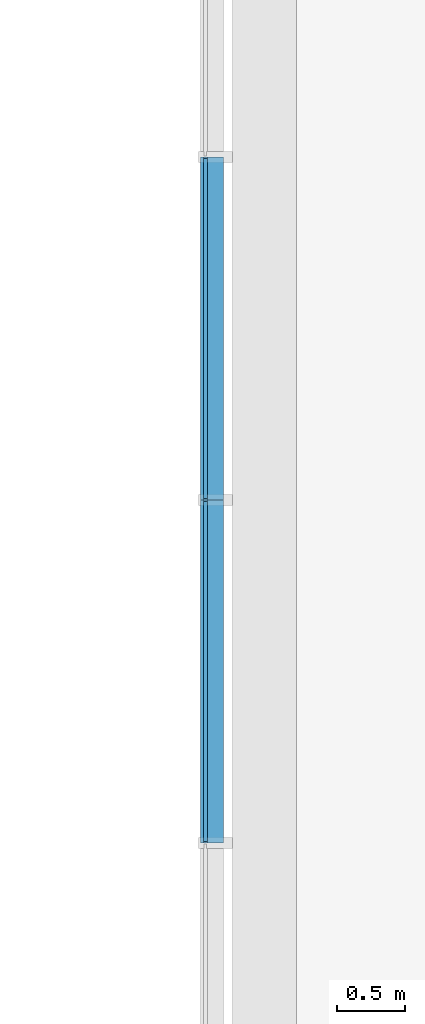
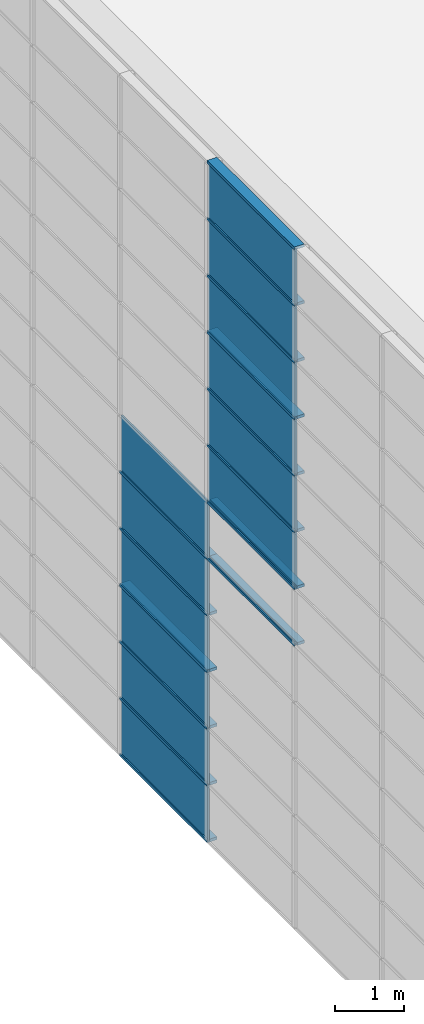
# One storey, part 16 of 105: 29 building element parts, 4 elements without a shape of their own.
"""IFC4 building model written with IfcOpenShell, lengths in millimetres."""

import ifcopenshell
import ifcopenshell.guid

model = None  # the IFC model being written
_history = None  # IfcOwnerHistory: only IFC2X3 demands one
_inside = {}  # id of a spatial element -> (the spatial element, [elements in it])
_under = {}  # id of a project, library or spatial element -> (it, [spatial elements below it])
_declared = {}  # id of a project -> (the project, [libraries it declares])
_typed = {}  # id of a type object -> (the type object, [elements of that type])
_made_of = {}  # id of a material, layer set ... -> (it, [elements and type objects made of it])


def new_model(schema):
    """Start an empty IFC model of exactly this schema.

    Asked for "IFC4X3", IfcOpenShell would pick the latest addendum, in which some entities
    have other attributes; the version numbers below select the first issue.
    IFC2X3 requires an IfcOwnerHistory on every rooted entity: one is made here for all.
    """
    global model, _history
    if schema == "IFC4X3":
        model = ifcopenshell.file(schema_version=(4, 3, 0, 0))
    else:
        model = ifcopenshell.file(schema=schema)
    _inside.clear()
    _under.clear()
    _declared.clear()
    _typed.clear()
    _made_of.clear()
    _history = None
    if model.schema == "IFC2X3":
        org = make("IfcOrganization", Name="unknown")
        user = make(
            "IfcPersonAndOrganization",
            ThePerson=make("IfcPerson", FamilyName="unknown"),
            TheOrganization=org,
        )
        app = make(
            "IfcApplication",
            ApplicationDeveloper=org,
            Version="unknown",
            ApplicationFullName="unknown",
            ApplicationIdentifier="unknown",
        )
        _history = make(
            "IfcOwnerHistory",
            OwningUser=user,
            OwningApplication=app,
            ChangeAction="ADDED",
            CreationDate=0,
        )
    return model


def make(cls, **values):
    """One entity of the class cls with the attributes given. An attribute that is None is left unset."""
    return model.create_entity(
        cls, **{name: value for name, value in values.items() if value is not None}
    )


def entity(cls, *values):
    """Any entity or typed value of the class cls, its attributes in the order of the schema. None: left unset."""
    e = model.create_entity(cls)
    for i, value in enumerate(values):
        if value is not None:
            e[i] = value
    return e


def rooted(cls, **values):
    """An entity with a GlobalId (a new one), such as an element, a storey or a relation."""
    return make(cls, GlobalId=ifcopenshell.guid.new(), OwnerHistory=_history, **values)


def si_unit(unit_type, name, prefix=None):
    """IfcSIUnit, for example si_unit("LENGTHUNIT", "METRE", prefix="MILLI")."""
    return make("IfcSIUnit", UnitType=unit_type, Prefix=prefix, Name=name)


def converted_unit(unit_type, name, factor, base, dimensions=None, offset=None):
    """IfcConversionBasedUnit, such as the inch: factor (a typed value) times the base unit."""
    return make(
        "IfcConversionBasedUnit"
        if offset is None
        else "IfcConversionBasedUnitWithOffset",
        ConversionOffset=offset,
        Dimensions=None
        if dimensions is None
        else entity("IfcDimensionalExponents", *dimensions),
        UnitType=unit_type,
        Name=name,
        ConversionFactor=make(
            "IfcMeasureWithUnit", ValueComponent=factor, UnitComponent=base
        ),
    )


def derived_unit(unit_type, elements):
    """IfcDerivedUnit: a product of units, each with its exponent."""
    return make(
        "IfcDerivedUnit",
        Elements=[
            make("IfcDerivedUnitElement", Unit=unit, Exponent=power)
            for unit, power in elements
        ],
        UnitType=unit_type,
    )


def assignment(units):
    """IfcUnitAssignment: the units of a project."""
    return None if units is None else make("IfcUnitAssignment", Units=units)


def point(xyz):
    """IfcCartesianPoint."""
    return None if xyz is None else make("IfcCartesianPoint", Coordinates=xyz)


def direction(xyz):
    """IfcDirection."""
    return None if xyz is None else make("IfcDirection", DirectionRatios=xyz)


def frame(location, z_axis=None, x_axis=None):
    """IfcAxis2Placement3D, a coordinate frame: its origin and axes. An axis left out is left unset."""
    return make(
        "IfcAxis2Placement3D",
        Location=point(location),
        Axis=direction(z_axis),
        RefDirection=direction(x_axis),
    )


def origin_with_axes():
    """The frame at (0, 0, 0) with the z axis (0, 0, 1) and the x axis (1, 0, 0) written out."""
    return frame((0.0, 0.0, 0.0), z_axis=(0.0, 0.0, 1.0), x_axis=(1.0, 0.0, 0.0))


def place(relative_to, where):
    """IfcLocalPlacement: puts the frame where relative to a parent placement (None: the world)."""
    return make(
        "IfcLocalPlacement", PlacementRelTo=relative_to, RelativePlacement=where
    )


def context(
    kind, dimensions, precision=None, world=None, true_north=None, identifier=None
):
    """IfcGeometricRepresentationContext, for example the 3D "Model" context."""
    return make(
        "IfcGeometricRepresentationContext",
        ContextIdentifier=identifier,
        ContextType=kind,
        CoordinateSpaceDimension=dimensions,
        Precision=precision,
        WorldCoordinateSystem=world,
        TrueNorth=true_north,
    )


def subcontext(parent, identifier, kind, view, scale=None):
    """IfcGeometricRepresentationSubContext, for example "Body" below "Model"."""
    return make(
        "IfcGeometricRepresentationSubContext",
        ContextIdentifier=identifier,
        ContextType=kind,
        ParentContext=parent,
        TargetScale=scale,
        TargetView=view,
    )


def project(units=None, contexts=None):
    """IfcProject with its units and contexts."""
    return rooted(
        "IfcProject",
        Name="project",
        RepresentationContexts=contexts,
        UnitsInContext=assignment(units),
    )


def spatial(cls, under=None, at=None, **own):
    """A site, building, storey or space (cls), placed at a placement, below another one or the project."""
    s = rooted(cls, ObjectPlacement=at, **own)
    if under is not None:
        _under.setdefault(under.id(), (under, []))[1].append(s)
    return s


def point_list(points):
    """IfcCartesianPointList2D or 3D."""
    cls = (
        "IfcCartesianPointList2D" if len(points[0]) == 2 else "IfcCartesianPointList3D"
    )
    return make(cls, CoordList=points)


def triangles(points, corners, closed=None, point_numbers=None):
    """IfcTriangulatedFaceSet: each triangle names its three corners, points numbered from 1."""
    return make(
        "IfcTriangulatedFaceSet",
        Coordinates=point_list(points),
        Closed=closed,
        CoordIndex=corners,
        PnIndex=point_numbers,
    )


def shape(context_of_items, identifier, shape_type, items):
    """IfcShapeRepresentation: the items that make up one representation, for example the "Body"."""
    return make(
        "IfcShapeRepresentation",
        ContextOfItems=context_of_items,
        RepresentationIdentifier=identifier,
        RepresentationType=shape_type,
        Items=items,
    )


def material(Name=None, Category=None):
    """IfcMaterial."""
    return make("IfcMaterial", Name=Name, Category=Category)


def made_of(thing, what):
    """Note that an element or type object is made of a material, layer set ...; save() writes the relation."""
    if what is not None:
        _made_of.setdefault(what.id(), (what, []))[1].append(thing)
    return thing


def element(
    cls,
    number,
    at=None,
    inside=None,
    cuts=None,
    type_object=None,
    material=None,
    context=None,
    identifier="Body",
    shape_type=None,
    held_by="IfcProductDefinitionShape",
    body=None,
    shapes=None,
    **own,
):
    """One element of the class cls, such as IfcWall. Its Tag is "e" and its number.

    at: its placement. inside: the storey or other place that contains it. cuts: it is an
    opening in that element (IfcRelVoidsElement). A single representation is given by context,
    identifier, shape_type and body (its items); several are given by shapes. held_by: the class
    of the entity that holds the representations. save() writes the other relations.
    """
    e = rooted(cls, Tag="e%d" % number, ObjectPlacement=at, **own)
    if body is not None:
        shapes = [shape(context, identifier, shape_type, body)]
    if shapes is not None:
        e.Representation = make(held_by, Representations=shapes)
    if inside is not None:
        _inside.setdefault(inside.id(), (inside, []))[1].append(e)
    if cuts is not None:
        rooted(
            "IfcRelVoidsElement", RelatingBuildingElement=cuts, RelatedOpeningElement=e
        )
    if type_object is not None:
        _typed.setdefault(type_object.id(), (type_object, []))[1].append(e)
    return made_of(e, material)


def aggregate(whole, parts):
    """IfcRelAggregates: a whole, such as a stair, and the parts it consists of."""
    return rooted("IfcRelAggregates", RelatingObject=whole, RelatedObjects=parts)


def save(model, path):
    """Write the relations noted so far, then the file.

    IfcRelAggregates (storeys below a building ...), IfcRelContainedInSpatialStructure (elements
    in a storey), IfcRelDefinesByType, IfcRelAssociatesMaterial and IfcRelDeclares: one each for
    every whole, place, type object, material and project.
    """
    for whole, parts in _under.values():
        aggregate(whole, parts)
    for where, things in _inside.values():
        rooted(
            "IfcRelContainedInSpatialStructure",
            RelatedElements=things,
            RelatingStructure=where,
        )
    for kind, things in _typed.values():
        rooted("IfcRelDefinesByType", RelatedObjects=things, RelatingType=kind)
    for what, things in _made_of.values():
        rooted("IfcRelAssociatesMaterial", RelatedObjects=things, RelatingMaterial=what)
    for by, libraries in _declared.values():
        rooted("IfcRelDeclares", RelatingContext=by, RelatedDefinitions=libraries)
    model.write(path)


model = new_model("IFC4")

# Units and contexts
model_context = context("Model", 3, precision=1e-05, world=origin_with_axes(), true_north=direction((0.0, 1.0)))
body_context = subcontext(model_context, "Body", "Model", "MODEL_VIEW")
ifc_project = project(units=[si_unit("LENGTHUNIT", "METRE", prefix="MILLI"), si_unit("AREAUNIT", "SQUARE_METRE"), si_unit("VOLUMEUNIT", "CUBIC_METRE"), converted_unit("PLANEANGLEUNIT", "DEGREE", entity("IfcLengthMeasure", 0.017453), si_unit("PLANEANGLEUNIT", "RADIAN"), dimensions=[0, 0, 0, 0, 0, 0, 0]), si_unit("SOLIDANGLEUNIT", "STERADIAN"), si_unit("MASSUNIT", "GRAM"), si_unit("TIMEUNIT", "SECOND"), si_unit("THERMODYNAMICTEMPERATUREUNIT", "DEGREE_CELSIUS"), si_unit("LUMINOUSINTENSITYUNIT", "LUMEN"), si_unit("POWERUNIT", "WATT"), derived_unit("THERMALTRANSMITTANCEUNIT", [(si_unit("POWERUNIT", "WATT"), 1), (si_unit("THERMODYNAMICTEMPERATUREUNIT", "KELVIN"), -1), (si_unit("AREAUNIT", "SQUARE_METRE"), -1)])], contexts=[model_context])

# Site, building, storey
site_placement = place(None, origin_with_axes())
site = spatial("IfcSite", under=ifc_project, at=site_placement, Name="Default Site", CompositionType="ELEMENT")
building_placement = place(site_placement, origin_with_axes())
building = spatial("IfcBuilding", under=site, at=building_placement, Name="Default Building", CompositionType="ELEMENT")
storey_placement = place(building_placement, origin_with_axes())
storey = spatial("IfcBuildingStorey", under=building, at=storey_placement, Name="OG - Story", CompositionType="ELEMENT", Elevation=0.0)

# Curtain wall, building element parts
curtain_wall_1_placement = place(storey_placement, origin_with_axes())
curtain_wall_1 = element("IfcCurtainWall", 1, at=curtain_wall_1_placement, inside=storey, Name="Fassade-003", PredefinedType="NOTDEFINED")
ifc_material_1 = material(Name="Normalglas")
building_element_part_1_placement = place(curtain_wall_1_placement, frame((31551.391327, -51326.104944, 0.0), z_axis=(0.0, 0.0, 1.0), x_axis=(1.0, 0.0, 0.0)))
building_element_part_1 = element("IfcBuildingElementPart", 2, at=building_element_part_1_placement, material=ifc_material_1, Name="Normalglas", PredefinedType="NOTDEFINED", context=body_context, shape_type="Tessellation", body=[
    triangles([(15.0, 29042.632, 995.0), (-14.999, 29042.632, 995.0), (-14.999, 26536.316, 995.0), (15.0, 26536.316, 995.0), (15.0, 29042.632, 5.0), (-14.999, 29042.632, 5.0), (-14.999, 26536.316, 5.0), (15.0, 26536.316, 5.0)], [[1, 2, 3], [1, 3, 4], [5, 6, 2], [5, 2, 1], [2, 6, 7], [2, 7, 3], [4, 3, 7], [4, 7, 8], [1, 4, 8], [1, 8, 5], [8, 7, 6], [8, 6, 5]], closed=False),
])
building_element_part_2_placement = place(curtain_wall_1_placement, frame((31551.391327, -51326.104944, 0.0), z_axis=(0.0, 0.0, 1.0), x_axis=(1.0, 0.0, 0.0)))
building_element_part_2 = element("IfcBuildingElementPart", 3, at=building_element_part_2_placement, material=ifc_material_1, Name="Normalglas", PredefinedType="NOTDEFINED", context=body_context, shape_type="Tessellation", body=[
    triangles([(15.0, 29042.632, 1995.0), (-14.999, 29042.632, 1995.0), (-14.999, 26536.316, 1995.0), (15.0, 26536.316, 1995.0), (15.0, 29042.632, 1005.0), (-14.999, 29042.632, 1005.0), (-14.999, 26536.316, 1005.0), (15.0, 26536.316, 1005.0)], [[1, 2, 3], [1, 3, 4], [5, 6, 2], [5, 2, 1], [2, 6, 7], [2, 7, 3], [4, 3, 7], [4, 7, 8], [1, 4, 8], [1, 8, 5], [8, 7, 6], [8, 6, 5]], closed=False),
])
building_element_part_3_placement = place(curtain_wall_1_placement, frame((31551.391327, -51326.104944, 0.0), z_axis=(0.0, 0.0, 1.0), x_axis=(1.0, 0.0, 0.0)))
building_element_part_3 = element("IfcBuildingElementPart", 4, at=building_element_part_3_placement, material=ifc_material_1, Name="Normalglas", PredefinedType="NOTDEFINED", context=body_context, shape_type="Tessellation", body=[
    triangles([(15.0, 29042.632, 2995.0), (-14.999, 29042.632, 2995.0), (-14.999, 26536.316, 2995.0), (15.0, 26536.316, 2995.0), (15.0, 29042.632, 2005.0), (-14.999, 29042.632, 2005.0), (-14.999, 26536.316, 2005.0), (15.0, 26536.316, 2005.0)], [[1, 2, 3], [1, 3, 4], [5, 6, 2], [5, 2, 1], [2, 6, 7], [2, 7, 3], [4, 3, 7], [4, 7, 8], [1, 4, 8], [1, 8, 5], [8, 7, 6], [8, 6, 5]], closed=False),
])
ifc_material_2 = material(Name="Blech")
building_element_part_4_placement = place(curtain_wall_1_placement, frame((31551.391327, -51326.104944, 0.0), z_axis=(0.0, 0.0, 1.0), x_axis=(1.0, 0.0, 0.0)))
building_element_part_4 = element("IfcBuildingElementPart", 5, at=building_element_part_4_placement, material=ifc_material_2, Name="Blech", PredefinedType="NOTDEFINED", context=body_context, shape_type="Tessellation", body=[
    triangles([(15.0, 29052.632, 25.0), (133.0, 29052.632, 25.0), (15.0, 29052.632, 5.0), (133.0, 29052.632, -24.999), (-14.999, 29052.632, 5.0), (-34.999, 29052.632, -24.999), (-34.999, 29052.632, 25.0), (-14.999, 29052.632, 25.0), (15.0, 26526.316, 5.0), (15.0, 26526.316, 25.0), (133.0, 26526.316, 25.0), (133.0, 26526.316, -24.999), (-34.999, 26526.316, -24.999), (-34.999, 26526.316, 25.0), (-14.999, 26526.316, 25.0), (-14.999, 26526.316, 5.0)], [[1, 2, 3], [3, 2, 4], [3, 4, 5], [5, 4, 6], [5, 6, 7], [5, 7, 8], [3, 9, 10], [3, 10, 1], [10, 11, 2], [10, 2, 1], [11, 12, 4], [11, 4, 2], [12, 13, 6], [12, 6, 4], [13, 14, 7], [13, 7, 6], [8, 7, 14], [8, 14, 15], [15, 16, 5], [15, 5, 8], [5, 16, 9], [5, 9, 3], [16, 9, 12], [16, 12, 13], [16, 13, 14], [16, 14, 15], [11, 12, 9], [11, 9, 10]], closed=False),
])
building_element_part_5_placement = place(curtain_wall_1_placement, frame((31551.391327, -51326.104944, 0.0), z_axis=(0.0, 0.0, 1.0), x_axis=(1.0, 0.0, 0.0)))
building_element_part_5 = element("IfcBuildingElementPart", 6, at=building_element_part_5_placement, material=ifc_material_2, Name="Blech", PredefinedType="NOTDEFINED", context=body_context, shape_type="Tessellation", body=[
    triangles([(-14.999, 29052.632, 1025.0), (-34.999, 29052.632, 1025.0), (-14.999, 29052.632, 1005.0), (-14.999, 29052.632, 995.0), (15.0, 29052.632, 1005.0), (133.0, 29052.632, 1025.0), (15.0, 29052.632, 1025.0), (-34.999, 29052.632, 975.0), (-14.999, 29052.632, 975.0), (15.0, 29052.632, 995.0), (15.0, 29052.632, 975.0), (133.0, 29052.632, 975.0), (15.0, 26526.316, 995.0), (-14.999, 26526.316, 995.0), (-14.999, 26526.316, 975.0), (-34.999, 26526.316, 975.0), (-34.999, 26526.316, 1025.0), (-14.999, 26526.316, 1025.0), (-14.999, 26526.316, 1005.0), (15.0, 26526.316, 1005.0), (15.0, 26526.316, 1025.0), (133.0, 26526.316, 1025.0), (133.0, 26526.316, 975.0), (15.0, 26526.316, 975.0)], [[1, 2, 3], [3, 2, 4], [3, 4, 5], [5, 4, 6], [5, 6, 7], [8, 9, 4], [8, 4, 2], [6, 4, 10], [6, 10, 11], [6, 11, 12], [10, 13, 14], [10, 14, 4], [4, 14, 15], [4, 15, 9], [15, 16, 8], [15, 8, 9], [8, 16, 17], [8, 17, 2], [18, 1, 2], [18, 2, 17], [1, 18, 19], [1, 19, 3], [5, 3, 19], [5, 19, 20], [7, 5, 20], [7, 20, 21], [7, 21, 22], [7, 22, 6], [6, 22, 23], [6, 23, 12], [11, 12, 23], [11, 23, 24], [11, 24, 13], [11, 13, 10], [21, 22, 20], [20, 22, 13], [20, 13, 19], [19, 13, 14], [19, 14, 17], [17, 14, 15], [17, 15, 16], [23, 24, 13], [23, 13, 22], [19, 17, 18]], closed=False),
])
building_element_part_6_placement = place(curtain_wall_1_placement, frame((31551.391327, -51326.104944, 0.0), z_axis=(0.0, 0.0, 1.0), x_axis=(1.0, 0.0, 0.0)))
building_element_part_6 = element("IfcBuildingElementPart", 7, at=building_element_part_6_placement, material=ifc_material_2, Name="Blech", PredefinedType="NOTDEFINED", context=body_context, shape_type="Tessellation", body=[
    triangles([(-14.999, 29052.632, 2025.0), (-34.999, 29052.632, 2025.0), (-14.999, 29052.632, 2005.0), (-14.999, 29052.632, 1995.0), (15.0, 29052.632, 2005.0), (133.0, 29052.632, 2025.0), (15.0, 29052.632, 2025.0), (-34.999, 29052.632, 1975.0), (-14.999, 29052.632, 1975.0), (15.0, 29052.632, 1995.0), (15.0, 29052.632, 1975.0), (133.0, 29052.632, 1975.0), (15.0, 26526.316, 1995.0), (-14.999, 26526.316, 1995.0), (-14.999, 26526.316, 1975.0), (-34.999, 26526.316, 1975.0), (-34.999, 26526.316, 2025.0), (-14.999, 26526.316, 2025.0), (-14.999, 26526.316, 2005.0), (15.0, 26526.316, 2005.0), (15.0, 26526.316, 2025.0), (133.0, 26526.316, 2025.0), (133.0, 26526.316, 1975.0), (15.0, 26526.316, 1975.0)], [[1, 2, 3], [3, 2, 4], [3, 4, 5], [5, 4, 6], [5, 6, 7], [8, 9, 4], [8, 4, 2], [6, 4, 10], [6, 10, 11], [6, 11, 12], [10, 13, 14], [10, 14, 4], [4, 14, 15], [4, 15, 9], [15, 16, 8], [15, 8, 9], [8, 16, 17], [8, 17, 2], [18, 1, 2], [18, 2, 17], [1, 18, 19], [1, 19, 3], [5, 3, 19], [5, 19, 20], [7, 5, 20], [7, 20, 21], [7, 21, 22], [7, 22, 6], [6, 22, 23], [6, 23, 12], [11, 12, 23], [11, 23, 24], [11, 24, 13], [11, 13, 10], [21, 22, 20], [20, 22, 13], [20, 13, 19], [19, 13, 14], [19, 14, 17], [17, 14, 15], [17, 15, 16], [23, 24, 13], [23, 13, 22], [19, 17, 18]], closed=False),
])
building_element_part_7_placement = place(curtain_wall_1_placement, frame((31551.391327, -51326.104944, 0.0), z_axis=(0.0, 0.0, 1.0), x_axis=(1.0, 0.0, 0.0)))
building_element_part_7 = element("IfcBuildingElementPart", 8, at=building_element_part_7_placement, material=ifc_material_2, Name="Blech", PredefinedType="NOTDEFINED", context=body_context, shape_type="Tessellation", body=[
    triangles([(-14.999, 29052.632, 2995.0), (15.0, 29052.632, 2995.0), (133.0, 29052.632, 3025.0), (-34.999, 29052.632, 3025.0), (-34.999, 29052.632, 2975.0), (-14.999, 29052.632, 2975.0), (15.0, 29052.632, 2975.0), (133.0, 29052.632, 2975.0), (15.0, 26526.316, 2995.0), (-14.999, 26526.316, 2995.0), (-14.999, 26526.316, 2975.0), (-34.999, 26526.316, 2975.0), (-34.999, 26526.316, 3025.0), (133.0, 26526.316, 3025.0), (133.0, 26526.316, 2975.0), (15.0, 26526.316, 2975.0)], [[1, 2, 3], [1, 3, 4], [1, 4, 5], [1, 5, 6], [7, 8, 3], [7, 3, 2], [1, 2, 9], [1, 9, 10], [11, 6, 1], [11, 1, 10], [6, 11, 12], [6, 12, 5], [13, 4, 5], [13, 5, 12], [14, 3, 4], [14, 4, 13], [15, 8, 3], [15, 3, 14], [16, 7, 8], [16, 8, 15], [2, 7, 16], [2, 16, 9], [10, 9, 14], [10, 14, 13], [10, 13, 12], [10, 12, 11], [16, 15, 14], [16, 14, 9]], closed=False),
])
aggregate(curtain_wall_1, [building_element_part_1, building_element_part_2, building_element_part_3, building_element_part_4, building_element_part_5, building_element_part_6, building_element_part_7])

curtain_wall_2_placement = place(storey_placement, origin_with_axes())
curtain_wall_2 = element("IfcCurtainWall", 9, at=curtain_wall_2_placement, inside=storey, Name="Fassade-003", PredefinedType="NOTDEFINED")
building_element_part_8_placement = place(curtain_wall_2_placement, frame((31551.391327, -51326.104944, 3000.0), z_axis=(0.0, 0.0, 1.0), x_axis=(1.0, 0.0, 0.0)))
building_element_part_8 = element("IfcBuildingElementPart", 10, at=building_element_part_8_placement, material=ifc_material_1, Name="Normalglas", PredefinedType="NOTDEFINED", context=body_context, shape_type="Tessellation", body=[
    triangles([(15.0, 29042.632, 995.0), (-14.999, 29042.632, 995.0), (-14.999, 26536.316, 995.0), (15.0, 26536.316, 995.0), (15.0, 29042.632, 5.0), (-14.999, 29042.632, 5.0), (-14.999, 26536.316, 5.0), (15.0, 26536.316, 5.0)], [[1, 2, 3], [1, 3, 4], [5, 6, 2], [5, 2, 1], [2, 6, 7], [2, 7, 3], [4, 3, 7], [4, 7, 8], [1, 4, 8], [1, 8, 5], [8, 7, 6], [8, 6, 5]], closed=False),
])
building_element_part_9_placement = place(curtain_wall_2_placement, frame((31551.391327, -51326.104944, 3000.0), z_axis=(0.0, 0.0, 1.0), x_axis=(1.0, 0.0, 0.0)))
building_element_part_9 = element("IfcBuildingElementPart", 11, at=building_element_part_9_placement, material=ifc_material_1, Name="Normalglas", PredefinedType="NOTDEFINED", context=body_context, shape_type="Tessellation", body=[
    triangles([(15.0, 29042.632, 1995.0), (-14.999, 29042.632, 1995.0), (-14.999, 26536.316, 1995.0), (15.0, 26536.316, 1995.0), (15.0, 29042.632, 1005.0), (-14.999, 29042.632, 1005.0), (-14.999, 26536.316, 1005.0), (15.0, 26536.316, 1005.0)], [[1, 2, 3], [1, 3, 4], [5, 6, 2], [5, 2, 1], [2, 6, 7], [2, 7, 3], [4, 3, 7], [4, 7, 8], [1, 4, 8], [1, 8, 5], [8, 7, 6], [8, 6, 5]], closed=False),
])
building_element_part_10_placement = place(curtain_wall_2_placement, frame((31551.391327, -51326.104944, 3000.0), z_axis=(0.0, 0.0, 1.0), x_axis=(1.0, 0.0, 0.0)))
building_element_part_10 = element("IfcBuildingElementPart", 12, at=building_element_part_10_placement, material=ifc_material_1, Name="Normalglas", PredefinedType="NOTDEFINED", context=body_context, shape_type="Tessellation", body=[
    triangles([(15.0, 29042.632, 2995.0), (-14.999, 29042.632, 2995.0), (-14.999, 26536.316, 2995.0), (15.0, 26536.316, 2995.0), (15.0, 29042.632, 2005.0), (-14.999, 29042.632, 2005.0), (-14.999, 26536.316, 2005.0), (15.0, 26536.316, 2005.0)], [[1, 2, 3], [1, 3, 4], [5, 6, 2], [5, 2, 1], [2, 6, 7], [2, 7, 3], [4, 3, 7], [4, 7, 8], [1, 4, 8], [1, 8, 5], [8, 7, 6], [8, 6, 5]], closed=False),
])
building_element_part_11_placement = place(curtain_wall_2_placement, frame((31551.391327, -51326.104944, 3000.0), z_axis=(0.0, 0.0, 1.0), x_axis=(1.0, 0.0, 0.0)))
building_element_part_11 = element("IfcBuildingElementPart", 13, at=building_element_part_11_placement, material=ifc_material_2, Name="Blech", PredefinedType="NOTDEFINED", context=body_context, shape_type="Tessellation", body=[
    triangles([(15.0, 29052.632, 25.0), (133.0, 29052.632, 25.0), (15.0, 29052.632, 5.0), (133.0, 29052.632, -24.999), (-14.999, 29052.632, 5.0), (-34.999, 29052.632, -24.999), (-34.999, 29052.632, 25.0), (-14.999, 29052.632, 25.0), (15.0, 26526.316, 5.0), (15.0, 26526.316, 25.0), (133.0, 26526.316, 25.0), (133.0, 26526.316, -24.999), (-34.999, 26526.316, -24.999), (-34.999, 26526.316, 25.0), (-14.999, 26526.316, 25.0), (-14.999, 26526.316, 5.0)], [[1, 2, 3], [3, 2, 4], [3, 4, 5], [5, 4, 6], [5, 6, 7], [5, 7, 8], [3, 9, 10], [3, 10, 1], [10, 11, 2], [10, 2, 1], [11, 12, 4], [11, 4, 2], [12, 13, 6], [12, 6, 4], [13, 14, 7], [13, 7, 6], [8, 7, 14], [8, 14, 15], [15, 16, 5], [15, 5, 8], [5, 16, 9], [5, 9, 3], [16, 9, 12], [16, 12, 13], [16, 13, 14], [16, 14, 15], [11, 12, 9], [11, 9, 10]], closed=False),
])
building_element_part_12_placement = place(curtain_wall_2_placement, frame((31551.391327, -51326.104944, 3000.0), z_axis=(0.0, 0.0, 1.0), x_axis=(1.0, 0.0, 0.0)))
building_element_part_12 = element("IfcBuildingElementPart", 14, at=building_element_part_12_placement, material=ifc_material_2, Name="Blech", PredefinedType="NOTDEFINED", context=body_context, shape_type="Tessellation", body=[
    triangles([(-14.999, 29052.632, 1025.0), (-34.999, 29052.632, 1025.0), (-14.999, 29052.632, 1005.0), (-14.999, 29052.632, 995.0), (15.0, 29052.632, 1005.0), (133.0, 29052.632, 1025.0), (15.0, 29052.632, 1025.0), (-34.999, 29052.632, 975.0), (-14.999, 29052.632, 975.0), (15.0, 29052.632, 995.0), (15.0, 29052.632, 975.0), (133.0, 29052.632, 975.0), (15.0, 26526.316, 995.0), (-14.999, 26526.316, 995.0), (-14.999, 26526.316, 975.0), (-34.999, 26526.316, 975.0), (-34.999, 26526.316, 1025.0), (-14.999, 26526.316, 1025.0), (-14.999, 26526.316, 1005.0), (15.0, 26526.316, 1005.0), (15.0, 26526.316, 1025.0), (133.0, 26526.316, 1025.0), (133.0, 26526.316, 975.0), (15.0, 26526.316, 975.0)], [[1, 2, 3], [3, 2, 4], [3, 4, 5], [5, 4, 6], [5, 6, 7], [8, 9, 4], [8, 4, 2], [6, 4, 10], [6, 10, 11], [6, 11, 12], [10, 13, 14], [10, 14, 4], [4, 14, 15], [4, 15, 9], [15, 16, 8], [15, 8, 9], [8, 16, 17], [8, 17, 2], [18, 1, 2], [18, 2, 17], [1, 18, 19], [1, 19, 3], [5, 3, 19], [5, 19, 20], [7, 5, 20], [7, 20, 21], [7, 21, 22], [7, 22, 6], [6, 22, 23], [6, 23, 12], [11, 12, 23], [11, 23, 24], [11, 24, 13], [11, 13, 10], [21, 22, 20], [20, 22, 13], [20, 13, 19], [19, 13, 14], [19, 14, 17], [17, 14, 15], [17, 15, 16], [23, 24, 13], [23, 13, 22], [19, 17, 18]], closed=False),
])
building_element_part_13_placement = place(curtain_wall_2_placement, frame((31551.391327, -51326.104944, 3000.0), z_axis=(0.0, 0.0, 1.0), x_axis=(1.0, 0.0, 0.0)))
building_element_part_13 = element("IfcBuildingElementPart", 15, at=building_element_part_13_placement, material=ifc_material_2, Name="Blech", PredefinedType="NOTDEFINED", context=body_context, shape_type="Tessellation", body=[
    triangles([(-14.999, 26526.316, 2025.0), (-34.999, 26526.316, 2025.0), (-14.999, 26526.316, 2005.0), (-14.999, 26526.316, 1995.0), (15.0, 26526.316, 2005.0), (133.0, 26526.316, 2025.0), (15.0, 26526.316, 2025.0), (-34.999, 26526.316, 1975.0), (-14.999, 26526.316, 1975.0), (15.0, 26526.316, 1995.0), (15.0, 26526.316, 1975.0), (133.0, 26526.316, 1975.0), (15.0, 24000.0, 1995.0), (-14.999, 24000.0, 1995.0), (-14.999, 24000.0, 1975.0), (-34.999, 24000.0, 1975.0), (-34.999, 24000.0, 2025.0), (-14.999, 24000.0, 2025.0), (-14.999, 24000.0, 2005.0), (15.0, 24000.0, 2005.0), (15.0, 24000.0, 2025.0), (133.0, 24000.0, 2025.0), (133.0, 24000.0, 1975.0), (15.0, 24000.0, 1975.0)], [[1, 2, 3], [3, 2, 4], [3, 4, 5], [5, 4, 6], [5, 6, 7], [8, 9, 4], [8, 4, 2], [6, 4, 10], [6, 10, 11], [6, 11, 12], [10, 13, 14], [10, 14, 4], [4, 14, 15], [4, 15, 9], [15, 16, 8], [15, 8, 9], [8, 16, 17], [8, 17, 2], [18, 1, 2], [18, 2, 17], [1, 18, 19], [1, 19, 3], [5, 3, 19], [5, 19, 20], [7, 5, 20], [7, 20, 21], [7, 21, 22], [7, 22, 6], [6, 22, 23], [6, 23, 12], [11, 12, 23], [11, 23, 24], [11, 24, 13], [11, 13, 10], [21, 22, 20], [20, 22, 13], [20, 13, 19], [19, 13, 14], [19, 14, 17], [17, 14, 15], [17, 15, 16], [23, 24, 13], [23, 13, 22], [19, 17, 18]], closed=False),
])
building_element_part_14_placement = place(curtain_wall_2_placement, frame((31551.391327, -51326.104944, 3000.0), z_axis=(0.0, 0.0, 1.0), x_axis=(1.0, 0.0, 0.0)))
building_element_part_14 = element("IfcBuildingElementPart", 16, at=building_element_part_14_placement, material=ifc_material_2, Name="Blech", PredefinedType="NOTDEFINED", context=body_context, shape_type="Tessellation", body=[
    triangles([(-14.999, 26526.316, 2995.0), (15.0, 26526.316, 2995.0), (133.0, 26526.316, 3025.0), (-34.999, 26526.316, 3025.0), (-34.999, 26526.316, 2975.0), (-14.999, 26526.316, 2975.0), (15.0, 26526.316, 2975.0), (133.0, 26526.316, 2975.0), (15.0, 24000.0, 2995.0), (-14.999, 24000.0, 2995.0), (-14.999, 24000.0, 2975.0), (-34.999, 24000.0, 2975.0), (-34.999, 24000.0, 3025.0), (133.0, 24000.0, 3025.0), (133.0, 24000.0, 2975.0), (15.0, 24000.0, 2975.0)], [[1, 2, 3], [1, 3, 4], [1, 4, 5], [1, 5, 6], [7, 8, 3], [7, 3, 2], [1, 2, 9], [1, 9, 10], [11, 6, 1], [11, 1, 10], [6, 11, 12], [6, 12, 5], [13, 4, 5], [13, 5, 12], [14, 3, 4], [14, 4, 13], [15, 8, 3], [15, 3, 14], [16, 7, 8], [16, 8, 15], [2, 7, 16], [2, 16, 9], [10, 9, 14], [10, 14, 13], [10, 13, 12], [10, 12, 11], [16, 15, 14], [16, 14, 9]], closed=False),
])
building_element_part_15_placement = place(curtain_wall_2_placement, frame((31551.391327, -51326.104944, 3000.0), z_axis=(0.0, 0.0, 1.0), x_axis=(1.0, 0.0, 0.0)))
building_element_part_15 = element("IfcBuildingElementPart", 17, at=building_element_part_15_placement, material=ifc_material_2, Name="Blech", PredefinedType="NOTDEFINED", context=body_context, shape_type="Tessellation", body=[
    triangles([(-14.999, 29052.632, 2025.0), (-34.999, 29052.632, 2025.0), (-14.999, 29052.632, 2005.0), (-14.999, 29052.632, 1995.0), (15.0, 29052.632, 2005.0), (133.0, 29052.632, 2025.0), (15.0, 29052.632, 2025.0), (-34.999, 29052.632, 1975.0), (-14.999, 29052.632, 1975.0), (15.0, 29052.632, 1995.0), (15.0, 29052.632, 1975.0), (133.0, 29052.632, 1975.0), (15.0, 26526.316, 1995.0), (-14.999, 26526.316, 1995.0), (-14.999, 26526.316, 1975.0), (-34.999, 26526.316, 1975.0), (-34.999, 26526.316, 2025.0), (-14.999, 26526.316, 2025.0), (-14.999, 26526.316, 2005.0), (15.0, 26526.316, 2005.0), (15.0, 26526.316, 2025.0), (133.0, 26526.316, 2025.0), (133.0, 26526.316, 1975.0), (15.0, 26526.316, 1975.0)], [[1, 2, 3], [3, 2, 4], [3, 4, 5], [5, 4, 6], [5, 6, 7], [8, 9, 4], [8, 4, 2], [6, 4, 10], [6, 10, 11], [6, 11, 12], [10, 13, 14], [10, 14, 4], [4, 14, 15], [4, 15, 9], [15, 16, 8], [15, 8, 9], [8, 16, 17], [8, 17, 2], [18, 1, 2], [18, 2, 17], [1, 18, 19], [1, 19, 3], [5, 3, 19], [5, 19, 20], [7, 5, 20], [7, 20, 21], [7, 21, 22], [7, 22, 6], [6, 22, 23], [6, 23, 12], [11, 12, 23], [11, 23, 24], [11, 24, 13], [11, 13, 10], [21, 22, 20], [20, 22, 13], [20, 13, 19], [19, 13, 14], [19, 14, 17], [17, 14, 15], [17, 15, 16], [23, 24, 13], [23, 13, 22], [19, 17, 18]], closed=False),
])
aggregate(curtain_wall_2, [building_element_part_8, building_element_part_9, building_element_part_10, building_element_part_11, building_element_part_12, building_element_part_13, building_element_part_14, building_element_part_15])

curtain_wall_3_placement = place(storey_placement, origin_with_axes())
curtain_wall_3 = element("IfcCurtainWall", 18, at=curtain_wall_3_placement, inside=storey, Name="Fassade-003", PredefinedType="NOTDEFINED")
building_element_part_16_placement = place(curtain_wall_3_placement, frame((31551.391327, -51326.104944, 6000.0), z_axis=(0.0, 0.0, 1.0), x_axis=(1.0, 0.0, 0.0)))
building_element_part_16 = element("IfcBuildingElementPart", 19, at=building_element_part_16_placement, material=ifc_material_1, Name="Normalglas", PredefinedType="NOTDEFINED", context=body_context, shape_type="Tessellation", body=[
    triangles([(15.0, 26516.316, 995.0), (-14.999, 26516.316, 995.0), (-14.999, 24010.0, 995.0), (15.0, 24010.0, 995.0), (15.0, 26516.316, 5.0), (-14.999, 26516.316, 5.0), (-14.999, 24010.0, 5.0), (15.0, 24010.0, 5.0)], [[1, 2, 3], [1, 3, 4], [5, 6, 2], [5, 2, 1], [2, 6, 7], [2, 7, 3], [4, 3, 7], [4, 7, 8], [1, 4, 8], [1, 8, 5], [8, 7, 6], [8, 6, 5]], closed=False),
])
building_element_part_17_placement = place(curtain_wall_3_placement, frame((31551.391327, -51326.104944, 6000.0), z_axis=(0.0, 0.0, 1.0), x_axis=(1.0, 0.0, 0.0)))
building_element_part_17 = element("IfcBuildingElementPart", 20, at=building_element_part_17_placement, material=ifc_material_1, Name="Normalglas", PredefinedType="NOTDEFINED", context=body_context, shape_type="Tessellation", body=[
    triangles([(15.0, 26516.316, 1995.0), (-14.999, 26516.316, 1995.0), (-14.999, 24010.0, 1995.0), (15.0, 24010.0, 1995.0), (15.0, 26516.316, 1005.0), (-14.999, 26516.316, 1005.0), (-14.999, 24010.0, 1005.0), (15.0, 24010.0, 1005.0)], [[1, 2, 3], [1, 3, 4], [5, 6, 2], [5, 2, 1], [2, 6, 7], [2, 7, 3], [4, 3, 7], [4, 7, 8], [1, 4, 8], [1, 8, 5], [8, 7, 6], [8, 6, 5]], closed=False),
])
building_element_part_18_placement = place(curtain_wall_3_placement, frame((31551.391327, -51326.104944, 6000.0), z_axis=(0.0, 0.0, 1.0), x_axis=(1.0, 0.0, 0.0)))
building_element_part_18 = element("IfcBuildingElementPart", 21, at=building_element_part_18_placement, material=ifc_material_1, Name="Normalglas", PredefinedType="NOTDEFINED", context=body_context, shape_type="Tessellation", body=[
    triangles([(15.0, 26516.316, 2995.0), (-14.999, 26516.316, 2995.0), (-14.999, 24010.0, 2995.0), (15.0, 24010.0, 2995.0), (15.0, 26516.316, 2005.0), (-14.999, 26516.316, 2005.0), (-14.999, 24010.0, 2005.0), (15.0, 24010.0, 2005.0)], [[1, 2, 3], [1, 3, 4], [5, 6, 2], [5, 2, 1], [2, 6, 7], [2, 7, 3], [4, 3, 7], [4, 7, 8], [1, 4, 8], [1, 8, 5], [8, 7, 6], [8, 6, 5]], closed=False),
])
building_element_part_19_placement = place(curtain_wall_3_placement, frame((31551.391327, -51326.104944, 6000.0), z_axis=(0.0, 0.0, 1.0), x_axis=(1.0, 0.0, 0.0)))
building_element_part_19 = element("IfcBuildingElementPart", 22, at=building_element_part_19_placement, material=ifc_material_2, Name="Blech", PredefinedType="NOTDEFINED", context=body_context, shape_type="Tessellation", body=[
    triangles([(15.0, 26526.316, 25.0), (133.0, 26526.316, 25.0), (15.0, 26526.316, 5.0), (133.0, 26526.316, -24.999), (-14.999, 26526.316, 5.0), (-34.999, 26526.316, -24.999), (-34.999, 26526.316, 25.0), (-14.999, 26526.316, 25.0), (15.0, 24000.0, 5.0), (15.0, 24000.0, 25.0), (133.0, 24000.0, 25.0), (133.0, 24000.0, -24.999), (-34.999, 24000.0, -24.999), (-34.999, 24000.0, 25.0), (-14.999, 24000.0, 25.0), (-14.999, 24000.0, 5.0)], [[1, 2, 3], [3, 2, 4], [3, 4, 5], [5, 4, 6], [5, 6, 7], [5, 7, 8], [3, 9, 10], [3, 10, 1], [10, 11, 2], [10, 2, 1], [11, 12, 4], [11, 4, 2], [12, 13, 6], [12, 6, 4], [13, 14, 7], [13, 7, 6], [8, 7, 14], [8, 14, 15], [15, 16, 5], [15, 5, 8], [5, 16, 9], [5, 9, 3], [16, 9, 12], [16, 12, 13], [16, 13, 14], [16, 14, 15], [11, 12, 9], [11, 9, 10]], closed=False),
])
building_element_part_20_placement = place(curtain_wall_3_placement, frame((31551.391327, -51326.104944, 6000.0), z_axis=(0.0, 0.0, 1.0), x_axis=(1.0, 0.0, 0.0)))
building_element_part_20 = element("IfcBuildingElementPart", 23, at=building_element_part_20_placement, material=ifc_material_2, Name="Blech", PredefinedType="NOTDEFINED", context=body_context, shape_type="Tessellation", body=[
    triangles([(-14.999, 26526.316, 1025.0), (-34.999, 26526.316, 1025.0), (-14.999, 26526.316, 1005.0), (-14.999, 26526.316, 995.0), (15.0, 26526.316, 1005.0), (133.0, 26526.316, 1025.0), (15.0, 26526.316, 1025.0), (-34.999, 26526.316, 975.0), (-14.999, 26526.316, 975.0), (15.0, 26526.316, 995.0), (15.0, 26526.316, 975.0), (133.0, 26526.316, 975.0), (15.0, 24000.0, 995.0), (-14.999, 24000.0, 995.0), (-14.999, 24000.0, 975.0), (-34.999, 24000.0, 975.0), (-34.999, 24000.0, 1025.0), (-14.999, 24000.0, 1025.0), (-14.999, 24000.0, 1005.0), (15.0, 24000.0, 1005.0), (15.0, 24000.0, 1025.0), (133.0, 24000.0, 1025.0), (133.0, 24000.0, 975.0), (15.0, 24000.0, 975.0)], [[1, 2, 3], [3, 2, 4], [3, 4, 5], [5, 4, 6], [5, 6, 7], [8, 9, 4], [8, 4, 2], [6, 4, 10], [6, 10, 11], [6, 11, 12], [10, 13, 14], [10, 14, 4], [4, 14, 15], [4, 15, 9], [15, 16, 8], [15, 8, 9], [8, 16, 17], [8, 17, 2], [18, 1, 2], [18, 2, 17], [1, 18, 19], [1, 19, 3], [5, 3, 19], [5, 19, 20], [7, 5, 20], [7, 20, 21], [7, 21, 22], [7, 22, 6], [6, 22, 23], [6, 23, 12], [11, 12, 23], [11, 23, 24], [11, 24, 13], [11, 13, 10], [21, 22, 20], [20, 22, 13], [20, 13, 19], [19, 13, 14], [19, 14, 17], [17, 14, 15], [17, 15, 16], [23, 24, 13], [23, 13, 22], [19, 17, 18]], closed=False),
])
building_element_part_21_placement = place(curtain_wall_3_placement, frame((31551.391327, -51326.104944, 6000.0), z_axis=(0.0, 0.0, 1.0), x_axis=(1.0, 0.0, 0.0)))
building_element_part_21 = element("IfcBuildingElementPart", 24, at=building_element_part_21_placement, material=ifc_material_2, Name="Blech", PredefinedType="NOTDEFINED", context=body_context, shape_type="Tessellation", body=[
    triangles([(-14.999, 26526.316, 2025.0), (-34.999, 26526.316, 2025.0), (-14.999, 26526.316, 2005.0), (-14.999, 26526.316, 1995.0), (15.0, 26526.316, 2005.0), (133.0, 26526.316, 2025.0), (15.0, 26526.316, 2025.0), (-34.999, 26526.316, 1975.0), (-14.999, 26526.316, 1975.0), (15.0, 26526.316, 1995.0), (15.0, 26526.316, 1975.0), (133.0, 26526.316, 1975.0), (15.0, 24000.0, 1995.0), (-14.999, 24000.0, 1995.0), (-14.999, 24000.0, 1975.0), (-34.999, 24000.0, 1975.0), (-34.999, 24000.0, 2025.0), (-14.999, 24000.0, 2025.0), (-14.999, 24000.0, 2005.0), (15.0, 24000.0, 2005.0), (15.0, 24000.0, 2025.0), (133.0, 24000.0, 2025.0), (133.0, 24000.0, 1975.0), (15.0, 24000.0, 1975.0)], [[1, 2, 3], [3, 2, 4], [3, 4, 5], [5, 4, 6], [5, 6, 7], [8, 9, 4], [8, 4, 2], [6, 4, 10], [6, 10, 11], [6, 11, 12], [10, 13, 14], [10, 14, 4], [4, 14, 15], [4, 15, 9], [15, 16, 8], [15, 8, 9], [8, 16, 17], [8, 17, 2], [18, 1, 2], [18, 2, 17], [1, 18, 19], [1, 19, 3], [5, 3, 19], [5, 19, 20], [7, 5, 20], [7, 20, 21], [7, 21, 22], [7, 22, 6], [6, 22, 23], [6, 23, 12], [11, 12, 23], [11, 23, 24], [11, 24, 13], [11, 13, 10], [21, 22, 20], [20, 22, 13], [20, 13, 19], [19, 13, 14], [19, 14, 17], [17, 14, 15], [17, 15, 16], [23, 24, 13], [23, 13, 22], [19, 17, 18]], closed=False),
])
building_element_part_22_placement = place(curtain_wall_3_placement, frame((31551.391327, -51326.104944, 6000.0), z_axis=(0.0, 0.0, 1.0), x_axis=(1.0, 0.0, 0.0)))
building_element_part_22 = element("IfcBuildingElementPart", 25, at=building_element_part_22_placement, material=ifc_material_2, Name="Blech", PredefinedType="NOTDEFINED", context=body_context, shape_type="Tessellation", body=[
    triangles([(-14.999, 26526.316, 2995.0), (15.0, 26526.316, 2995.0), (133.0, 26526.316, 3025.0), (-34.999, 26526.316, 3025.0), (-34.999, 26526.316, 2975.0), (-14.999, 26526.316, 2975.0), (15.0, 26526.316, 2975.0), (133.0, 26526.316, 2975.0), (15.0, 24000.0, 2995.0), (-14.999, 24000.0, 2995.0), (-14.999, 24000.0, 2975.0), (-34.999, 24000.0, 2975.0), (-34.999, 24000.0, 3025.0), (133.0, 24000.0, 3025.0), (133.0, 24000.0, 2975.0), (15.0, 24000.0, 2975.0)], [[1, 2, 3], [1, 3, 4], [1, 4, 5], [1, 5, 6], [7, 8, 3], [7, 3, 2], [1, 2, 9], [1, 9, 10], [11, 6, 1], [11, 1, 10], [6, 11, 12], [6, 12, 5], [13, 4, 5], [13, 5, 12], [14, 3, 4], [14, 4, 13], [15, 8, 3], [15, 3, 14], [16, 7, 8], [16, 8, 15], [2, 7, 16], [2, 16, 9], [10, 9, 14], [10, 14, 13], [10, 13, 12], [10, 12, 11], [16, 15, 14], [16, 14, 9]], closed=False),
])
aggregate(curtain_wall_3, [building_element_part_16, building_element_part_17, building_element_part_18, building_element_part_19, building_element_part_20, building_element_part_21, building_element_part_22])

curtain_wall_4_placement = place(storey_placement, origin_with_axes())
curtain_wall_4 = element("IfcCurtainWall", 26, at=curtain_wall_4_placement, inside=storey, Name="Fassade-003", PredefinedType="NOTDEFINED")
building_element_part_23_placement = place(curtain_wall_4_placement, frame((31551.391327, -51326.104944, 9000.0), z_axis=(0.0, 0.0, 1.0), x_axis=(1.0, 0.0, 0.0)))
building_element_part_23 = element("IfcBuildingElementPart", 27, at=building_element_part_23_placement, material=ifc_material_1, Name="Normalglas", PredefinedType="NOTDEFINED", context=body_context, shape_type="Tessellation", body=[
    triangles([(15.0, 26516.316, 995.0), (-14.999, 26516.316, 995.0), (-14.999, 24010.0, 995.0), (15.0, 24010.0, 995.0), (15.0, 26516.316, 5.0), (-14.999, 26516.316, 5.0), (-14.999, 24010.0, 5.0), (15.0, 24010.0, 5.0)], [[1, 2, 3], [1, 3, 4], [5, 6, 2], [5, 2, 1], [2, 6, 7], [2, 7, 3], [4, 3, 7], [4, 7, 8], [1, 4, 8], [1, 8, 5], [8, 7, 6], [8, 6, 5]], closed=False),
])
building_element_part_24_placement = place(curtain_wall_4_placement, frame((31551.391327, -51326.104944, 9000.0), z_axis=(0.0, 0.0, 1.0), x_axis=(1.0, 0.0, 0.0)))
building_element_part_24 = element("IfcBuildingElementPart", 28, at=building_element_part_24_placement, material=ifc_material_1, Name="Normalglas", PredefinedType="NOTDEFINED", context=body_context, shape_type="Tessellation", body=[
    triangles([(15.0, 26516.316, 1995.0), (-14.999, 26516.316, 1995.0), (-14.999, 24010.0, 1995.0), (15.0, 24010.0, 1995.0), (15.0, 26516.316, 1005.0), (-14.999, 26516.316, 1005.0), (-14.999, 24010.0, 1005.0), (15.0, 24010.0, 1005.0)], [[1, 2, 3], [1, 3, 4], [5, 6, 2], [5, 2, 1], [2, 6, 7], [2, 7, 3], [4, 3, 7], [4, 7, 8], [1, 4, 8], [1, 8, 5], [8, 7, 6], [8, 6, 5]], closed=False),
])
building_element_part_25_placement = place(curtain_wall_4_placement, frame((31551.391327, -51326.104944, 9000.0), z_axis=(0.0, 0.0, 1.0), x_axis=(1.0, 0.0, 0.0)))
building_element_part_25 = element("IfcBuildingElementPart", 29, at=building_element_part_25_placement, material=ifc_material_1, Name="Normalglas", PredefinedType="NOTDEFINED", context=body_context, shape_type="Tessellation", body=[
    triangles([(15.0, 26516.316, 2995.0), (-14.999, 26516.316, 2995.0), (-14.999, 24010.0, 2995.0), (15.0, 24010.0, 2995.0), (15.0, 26516.316, 2005.0), (-14.999, 26516.316, 2005.0), (-14.999, 24010.0, 2005.0), (15.0, 24010.0, 2005.0)], [[1, 2, 3], [1, 3, 4], [5, 6, 2], [5, 2, 1], [2, 6, 7], [2, 7, 3], [4, 3, 7], [4, 7, 8], [1, 4, 8], [1, 8, 5], [8, 7, 6], [8, 6, 5]], closed=False),
])
building_element_part_26_placement = place(curtain_wall_4_placement, frame((31551.391327, -51326.104944, 9000.0), z_axis=(0.0, 0.0, 1.0), x_axis=(1.0, 0.0, 0.0)))
building_element_part_26 = element("IfcBuildingElementPart", 30, at=building_element_part_26_placement, material=ifc_material_2, Name="Blech", PredefinedType="NOTDEFINED", context=body_context, shape_type="Tessellation", body=[
    triangles([(15.0, 26526.316, 25.0), (133.0, 26526.316, 25.0), (15.0, 26526.316, 5.0), (133.0, 26526.316, -24.999), (-14.999, 26526.316, 5.0), (-34.999, 26526.316, -24.999), (-34.999, 26526.316, 25.0), (-14.999, 26526.316, 25.0), (15.0, 24000.0, 5.0), (15.0, 24000.0, 25.0), (133.0, 24000.0, 25.0), (133.0, 24000.0, -24.999), (-34.999, 24000.0, -24.999), (-34.999, 24000.0, 25.0), (-14.999, 24000.0, 25.0), (-14.999, 24000.0, 5.0)], [[1, 2, 3], [3, 2, 4], [3, 4, 5], [5, 4, 6], [5, 6, 7], [5, 7, 8], [3, 9, 10], [3, 10, 1], [10, 11, 2], [10, 2, 1], [11, 12, 4], [11, 4, 2], [12, 13, 6], [12, 6, 4], [13, 14, 7], [13, 7, 6], [8, 7, 14], [8, 14, 15], [15, 16, 5], [15, 5, 8], [5, 16, 9], [5, 9, 3], [16, 9, 12], [16, 12, 13], [16, 13, 14], [16, 14, 15], [11, 12, 9], [11, 9, 10]], closed=False),
])
building_element_part_27_placement = place(curtain_wall_4_placement, frame((31551.391327, -51326.104944, 9000.0), z_axis=(0.0, 0.0, 1.0), x_axis=(1.0, 0.0, 0.0)))
building_element_part_27 = element("IfcBuildingElementPart", 31, at=building_element_part_27_placement, material=ifc_material_2, Name="Blech", PredefinedType="NOTDEFINED", context=body_context, shape_type="Tessellation", body=[
    triangles([(-14.999, 26526.316, 1025.0), (-34.999, 26526.316, 1025.0), (-14.999, 26526.316, 1005.0), (-14.999, 26526.316, 995.0), (15.0, 26526.316, 1005.0), (133.0, 26526.316, 1025.0), (15.0, 26526.316, 1025.0), (-34.999, 26526.316, 975.0), (-14.999, 26526.316, 975.0), (15.0, 26526.316, 995.0), (15.0, 26526.316, 975.0), (133.0, 26526.316, 975.0), (15.0, 24000.0, 995.0), (-14.999, 24000.0, 995.0), (-14.999, 24000.0, 975.0), (-34.999, 24000.0, 975.0), (-34.999, 24000.0, 1025.0), (-14.999, 24000.0, 1025.0), (-14.999, 24000.0, 1005.0), (15.0, 24000.0, 1005.0), (15.0, 24000.0, 1025.0), (133.0, 24000.0, 1025.0), (133.0, 24000.0, 975.0), (15.0, 24000.0, 975.0)], [[1, 2, 3], [3, 2, 4], [3, 4, 5], [5, 4, 6], [5, 6, 7], [8, 9, 4], [8, 4, 2], [6, 4, 10], [6, 10, 11], [6, 11, 12], [10, 13, 14], [10, 14, 4], [4, 14, 15], [4, 15, 9], [15, 16, 8], [15, 8, 9], [8, 16, 17], [8, 17, 2], [18, 1, 2], [18, 2, 17], [1, 18, 19], [1, 19, 3], [5, 3, 19], [5, 19, 20], [7, 5, 20], [7, 20, 21], [7, 21, 22], [7, 22, 6], [6, 22, 23], [6, 23, 12], [11, 12, 23], [11, 23, 24], [11, 24, 13], [11, 13, 10], [21, 22, 20], [20, 22, 13], [20, 13, 19], [19, 13, 14], [19, 14, 17], [17, 14, 15], [17, 15, 16], [23, 24, 13], [23, 13, 22], [19, 17, 18]], closed=False),
])
building_element_part_28_placement = place(curtain_wall_4_placement, frame((31551.391327, -51326.104944, 9000.0), z_axis=(0.0, 0.0, 1.0), x_axis=(1.0, 0.0, 0.0)))
building_element_part_28 = element("IfcBuildingElementPart", 32, at=building_element_part_28_placement, material=ifc_material_2, Name="Blech", PredefinedType="NOTDEFINED", context=body_context, shape_type="Tessellation", body=[
    triangles([(-14.999, 26526.316, 2025.0), (-34.999, 26526.316, 2025.0), (-14.999, 26526.316, 2005.0), (-14.999, 26526.316, 1995.0), (15.0, 26526.316, 2005.0), (133.0, 26526.316, 2025.0), (15.0, 26526.316, 2025.0), (-34.999, 26526.316, 1975.0), (-14.999, 26526.316, 1975.0), (15.0, 26526.316, 1995.0), (15.0, 26526.316, 1975.0), (133.0, 26526.316, 1975.0), (15.0, 24000.0, 1995.0), (-14.999, 24000.0, 1995.0), (-14.999, 24000.0, 1975.0), (-34.999, 24000.0, 1975.0), (-34.999, 24000.0, 2025.0), (-14.999, 24000.0, 2025.0), (-14.999, 24000.0, 2005.0), (15.0, 24000.0, 2005.0), (15.0, 24000.0, 2025.0), (133.0, 24000.0, 2025.0), (133.0, 24000.0, 1975.0), (15.0, 24000.0, 1975.0)], [[1, 2, 3], [3, 2, 4], [3, 4, 5], [5, 4, 6], [5, 6, 7], [8, 9, 4], [8, 4, 2], [6, 4, 10], [6, 10, 11], [6, 11, 12], [10, 13, 14], [10, 14, 4], [4, 14, 15], [4, 15, 9], [15, 16, 8], [15, 8, 9], [8, 16, 17], [8, 17, 2], [18, 1, 2], [18, 2, 17], [1, 18, 19], [1, 19, 3], [5, 3, 19], [5, 19, 20], [7, 5, 20], [7, 20, 21], [7, 21, 22], [7, 22, 6], [6, 22, 23], [6, 23, 12], [11, 12, 23], [11, 23, 24], [11, 24, 13], [11, 13, 10], [21, 22, 20], [20, 22, 13], [20, 13, 19], [19, 13, 14], [19, 14, 17], [17, 14, 15], [17, 15, 16], [23, 24, 13], [23, 13, 22], [19, 17, 18]], closed=False),
])
building_element_part_29_placement = place(curtain_wall_4_placement, frame((31551.391327, -51326.104944, 9000.0), z_axis=(0.0, 0.0, 1.0), x_axis=(1.0, 0.0, 0.0)))
building_element_part_29 = element("IfcBuildingElementPart", 33, at=building_element_part_29_placement, material=ifc_material_2, Name="Blech", PredefinedType="NOTDEFINED", context=body_context, shape_type="Tessellation", body=[
    triangles([(-14.999, 26526.316, 2995.0), (15.0, 26526.316, 2995.0), (133.0, 26526.316, 3025.0), (-34.999, 26526.316, 3025.0), (-34.999, 26526.316, 2975.0), (-14.999, 26526.316, 2975.0), (15.0, 26526.316, 2975.0), (133.0, 26526.316, 2975.0), (15.0, 24000.0, 2995.0), (-14.999, 24000.0, 2995.0), (-14.999, 24000.0, 2975.0), (-34.999, 24000.0, 2975.0), (-34.999, 24000.0, 3025.0), (133.0, 24000.0, 3025.0), (133.0, 24000.0, 2975.0), (15.0, 24000.0, 2975.0)], [[1, 2, 3], [1, 3, 4], [1, 4, 5], [1, 5, 6], [7, 8, 3], [7, 3, 2], [1, 2, 9], [1, 9, 10], [11, 6, 1], [11, 1, 10], [6, 11, 12], [6, 12, 5], [13, 4, 5], [13, 5, 12], [14, 3, 4], [14, 4, 13], [15, 8, 3], [15, 3, 14], [16, 7, 8], [16, 8, 15], [2, 7, 16], [2, 16, 9], [10, 9, 14], [10, 14, 13], [10, 13, 12], [10, 12, 11], [16, 15, 14], [16, 14, 9]], closed=False),
])
aggregate(curtain_wall_4, [building_element_part_23, building_element_part_24, building_element_part_25, building_element_part_26, building_element_part_27, building_element_part_28, building_element_part_29])

save(model, "model.ifc")
